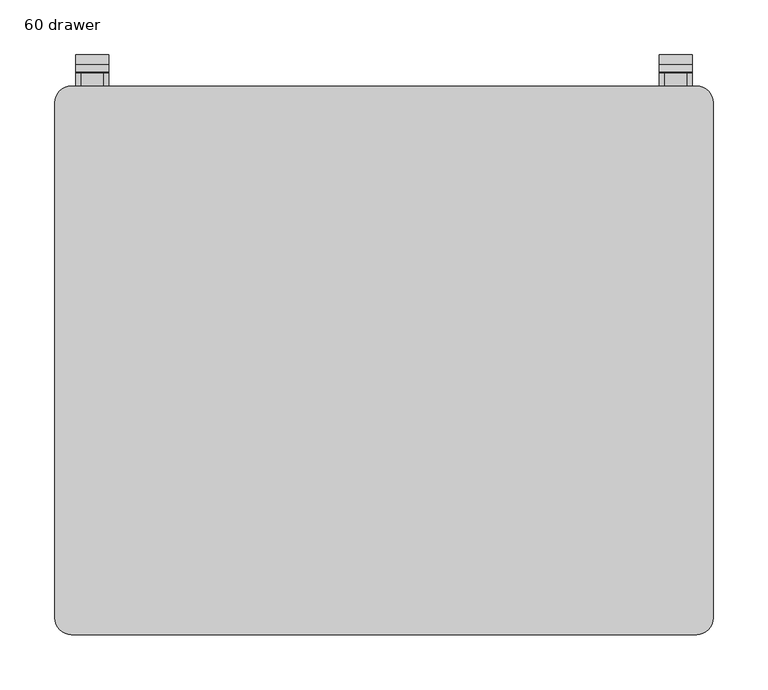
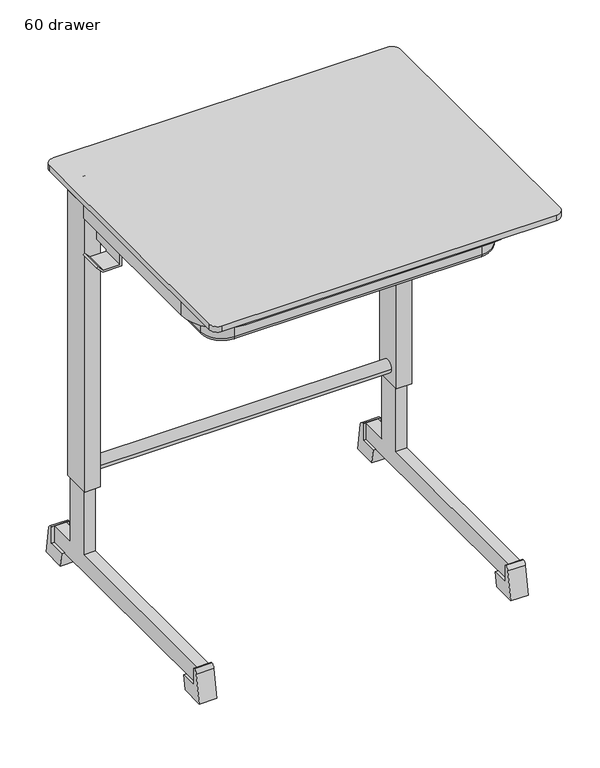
"""IFC4 building model written with IfcOpenShell, lengths in millimetres: furniture geometry, Trivia table : 60 drawer."""

from ifc_helpers import new_model, si_unit, point, frame, frame_2d, origin, place, context, project, spatial, polyline, circle_curve, ellipse_curve, trimmed, segment, composite_curve, outline, extrude, faceted_brep, source, transform, mapped, element, save
from ifc_brep_helpers import plane_surface, cylinder_surface, revolved_surface, advanced_brep


def furniture_60_drawer_d4275357(model_context):
    return source(origin(), model_context, "Body", "SolidModel", [
        advanced_brep(
        [(-242.1886902, -120.5095927, 696.521797), (-242.1886902, -120.5095927, 628.2965405), (-242.1886902, 129.6420925, 628.2965405), (-242.1886902, 144.6420925, 628.2965405), (-242.1886902, 144.6420925, 668.000493), (-242.1886902, 176.1657584, 668.000493), (-242.1886902, 176.1657584, 690.521797), (-242.1886902, 176.1657584, 696.521797), (-211.0, -151.6982829, 628.2965405), (211.0, -151.6982829, 628.2965405), (242.1886902, -120.5095927, 628.2965405), (242.1886902, 129.6420925, 628.2965405), (242.1886902, 144.6420925, 628.2965405), (242.1886902, -120.5095927, 622.2965405), (211.0, -151.6982829, 622.2965405), (-211.0, -151.6982829, 622.2965405), (-242.1886902, -120.5095927, 622.2965405), (-242.1886902, 129.6420925, 622.2965405), (-242.1886902, 144.6420925, 622.2965405), (242.1886902, 144.6420925, 622.2965405), (242.1886902, 129.6420925, 622.2965405), (-248.1886902, -120.5095927, 628.2965405), (-248.1886902, 150.6420925, 628.2965405), (-248.1886902, -120.5095927, 690.521797), (-248.1886902, 182.1657584, 690.521797), (-248.1886902, 182.1657584, 668.000493), (-248.1886902, 176.1657584, 662.000493), (-248.1886902, 150.6420925, 662.000493), (275.0, -120.5095927, 690.521797), (211.0, -184.5095927, 690.521797), (-211.0, -184.5095927, 690.521797), (-275.0, -120.5095927, 690.521797), (-275.0, 167.0000173, 690.521797), (-253.0, 167.0000173, 690.521797), (-253.0, 211.0000176, 690.521797), (253.0, 211.0000176, 690.521797), (253.0, 167.0000173, 690.521797), (275.0, 167.0000173, 690.521797), (-211.0, -157.6982829, 690.521797), (211.0, -157.6982829, 690.521797), (248.1886902, -120.5095927, 690.521797), (248.1886902, 182.1657584, 690.521797), (-281.0, -120.5095927, 670.0758066), (-281.0, -120.5095927, 696.521797), (-281.0, 167.0000173, 696.521797), (-281.0, 167.0000173, 670.0758066), (-211.0, -190.5095927, 696.521797), (211.0, -190.5095927, 696.521797), (281.0, -120.5095927, 696.521797), (281.0, 167.0000173, 696.521797), (253.0, 167.0000173, 696.521797), (253.0, 211.0000176, 696.521797), (-253.0, 211.0000176, 696.521797), (-253.0, 167.0000173, 696.521797), (242.1886902, -120.5095927, 696.521797), (211.0, -151.6982829, 696.521797), (-211.0, -151.6982829, 696.521797), (242.1886902, 176.1657584, 696.521797), (-211.0, -157.6982829, 628.2965405), (-211.0, -190.5095927, 670.0758066), (211.0, -157.6982829, 628.2965405), (211.0, -190.5095927, 670.0758066), (248.1886902, -120.5095927, 628.2965405), (281.0, -120.5095927, 670.0758066), (242.1886902, 176.1657584, 690.521797), (242.1886902, 176.1657584, 668.000493), (242.1886902, 144.6420925, 668.000493), (248.1886902, 150.6420925, 628.2965405), (248.1886902, 150.6420925, 662.000493), (248.1886902, 176.1657584, 662.000493), (248.1886902, 182.1657584, 668.000493), (281.0, 167.0000173, 670.0758066), (-242.1886902, 182.1657584, 668.000493), (242.1886902, 182.1657584, 668.000493), (-242.1886902, 176.1657584, 662.000493), (242.1886902, 176.1657584, 662.000493), (-253.0, 217.0000176, 662.000493), (-253.0, 211.0000176, 662.000493), (-253.0, 217.0000176, 690.521797), (253.0, 217.0000176, 690.521797), (253.0, 217.0000176, 662.000493), (253.0, 211.0000176, 662.000493), (-275.0, -120.5095927, 670.0758066), (-275.0, 167.0000173, 670.0758066), (-211.0, -184.5095927, 670.0758066), (211.0, -184.5095927, 670.0758066), (275.0, -120.5095927, 670.0758066), (275.0, 167.0000173, 670.0758066)],
        [
            (0, 1),
            (1, 2),
            (2, 3),
            (3, 4),
            (4, 5),
            (5, 6),
            (6, 7),
            (7, 0),
            (1, 8, circle_curve(frame((-211.0, -120.5095927, 628.2965405), z_axis=(0.0, 0.0, 1.0), x_axis=(-1.0, 0.0, 0.0)), 31.1886902)),
            (8, 9),
            (9, 10, circle_curve(frame((211.0, -120.5095927, 628.2965405), z_axis=(0.0, 0.0, 1.0), x_axis=(0.0, -1.0, 0.0)), 31.1886902)),
            (10, 11),
            (11, 12),
            (12, 3),
            (13, 14, circle_curve(frame((211.0, -120.5095927, 622.2965405), z_axis=(0.0, 0.0, -1.0), x_axis=(0.0, -1.0, 0.0)), 31.1886902)),
            (14, 15),
            (15, 16, circle_curve(frame((-211.0, -120.5095927, 622.2965405), z_axis=(0.0, 0.0, -1.0), x_axis=(-1.0, 0.0, 0.0)), 31.1886902)),
            (16, 17),
            (17, 18),
            (18, 19),
            (19, 20),
            (20, 13),
            (16, 21, circle_curve(frame((-242.1886902, -120.5095927, 628.2965405), z_axis=(0.0, 1.0, 0.0), x_axis=(1.0, 0.0, 0.0)), 6.0)),
            (21, 22),
            (22, 18, ellipse_curve(frame((-242.1886902, 144.6420925, 628.2965405), z_axis=(-0.707106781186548, -0.7071067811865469, 0.0), x_axis=(-0.7071067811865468, 0.7071067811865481, 0.0)), 8.4852814, 6.0)),
            (21, 23),
            (23, 24),
            (24, 25),
            (25, 26, circle_curve(frame((-248.1886902, 176.1657584, 668.000493), z_axis=(-1.0, 0.0, 0.0), x_axis=(0.0, 1.0, 0.0)), 6.0)),
            (26, 27),
            (27, 22),
            (28, 29, circle_curve(frame((211.0, -120.5095927, 690.521797), z_axis=(0.0, 0.0, -1.0), x_axis=(0.0, -1.0, 0.0)), 64.0)),
            (29, 30),
            (30, 31, circle_curve(frame((-211.0, -120.5095927, 690.521797), z_axis=(0.0, 0.0, -1.0), x_axis=(-1.0, 0.0, 0.0)), 64.0)),
            (31, 32),
            (32, 33),
            (33, 34),
            (34, 35),
            (35, 36),
            (36, 37),
            (37, 28),
            (23, 38, circle_curve(frame((-211.0, -120.5095927, 690.521797), z_axis=(0.0, 0.0, 1.0), x_axis=(-1.0, 0.0, 0.0)), 37.1886902)),
            (38, 39),
            (39, 40, circle_curve(frame((211.0, -120.5095927, 690.521797), z_axis=(0.0, 0.0, 1.0), x_axis=(0.0, -1.0, 0.0)), 37.1886902)),
            (40, 41),
            (41, 24),
            (42, 43),
            (43, 44),
            (44, 45),
            (45, 42),
            (43, 46, circle_curve(frame((-211.0, -120.5095927, 696.521797), z_axis=(0.0, 0.0, 1.0), x_axis=(-1.0, 0.0, 0.0)), 70.0)),
            (46, 47),
            (47, 48, circle_curve(frame((211.0, -120.5095927, 696.521797), z_axis=(0.0, 0.0, 1.0), x_axis=(0.0, -1.0, 0.0)), 70.0)),
            (48, 49),
            (49, 50),
            (50, 51),
            (51, 52),
            (52, 53),
            (53, 44),
            (54, 55, circle_curve(frame((211.0, -120.5095927, 696.521797), z_axis=(0.0, 0.0, -1.0), x_axis=(0.0, -1.0, 0.0)), 31.1886902)),
            (55, 56),
            (56, 0, circle_curve(frame((-211.0, -120.5095927, 696.521797), z_axis=(0.0, 0.0, -1.0), x_axis=(-1.0, 0.0, 0.0)), 31.1886902)),
            (7, 57),
            (57, 54),
            (56, 8),
            (15, 58, circle_curve(frame((-211.0, -151.6982829, 628.2965405), z_axis=(-1.0, 0.0, 0.0), x_axis=(0.0, 1.0, 0.0)), 6.0)),
            (58, 21, circle_curve(frame((-211.0, -120.5095927, 628.2965405), z_axis=(0.0, 0.0, -1.0), x_axis=(-1.0, 0.0, 0.0)), 37.1886902)),
            (58, 38),
            (42, 59, circle_curve(frame((-211.0, -120.5095927, 670.0758066), z_axis=(0.0, 0.0, 1.0), x_axis=(-1.0, 0.0, 0.0)), 70.0)),
            (59, 46),
            (55, 9),
            (14, 60, circle_curve(frame((211.0, -151.6982829, 628.2965405), z_axis=(-1.0, 0.0, 0.0), x_axis=(0.0, 1.0, 0.0)), 6.0)),
            (60, 58),
            (60, 39),
            (59, 61),
            (61, 47),
            (54, 10),
            (13, 62, circle_curve(frame((242.1886902, -120.5095927, 628.2965405), z_axis=(0.0, -1.0, 0.0), x_axis=(-1.0, 0.0, 0.0)), 6.0)),
            (62, 60, circle_curve(frame((211.0, -120.5095927, 628.2965405), z_axis=(0.0, 0.0, -1.0), x_axis=(0.0, -1.0, 0.0)), 37.1886902)),
            (62, 40),
            (61, 63, circle_curve(frame((211.0, -120.5095927, 670.0758066), z_axis=(0.0, 0.0, 1.0), x_axis=(0.0, -1.0, 0.0)), 70.0)),
            (63, 48),
            (57, 64),
            (64, 65),
            (65, 66),
            (66, 12),
            (19, 67, ellipse_curve(frame((242.1886902, 144.6420925, 628.2965405), z_axis=(0.7071067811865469, -0.707106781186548, 0.0), x_axis=(-0.7071067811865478, -0.707106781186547, 0.0)), 8.4852814, 6.0)),
            (67, 62),
            (67, 68),
            (68, 69),
            (69, 70, circle_curve(frame((248.1886902, 176.1657584, 668.000493), z_axis=(1.0, 0.0, 0.0), x_axis=(0.0, 1.0, 0.0)), 6.0)),
            (70, 41),
            (63, 71),
            (71, 49),
            (72, 25),
            (70, 73),
            (73, 72),
            (26, 74),
            (74, 75),
            (75, 69),
            (68, 27),
            (67, 22),
            (72, 74, circle_curve(frame((-242.1886902, 176.1657584, 668.000493), z_axis=(-1.0, 0.0, 0.0), x_axis=(0.0, 1.0, 0.0)), 6.0)),
            (75, 73, circle_curve(frame((242.1886902, 176.1657584, 668.000493), z_axis=(1.0, 0.0, 0.0), x_axis=(0.0, 1.0, 0.0)), 6.0)),
            (76, 77),
            (77, 34),
            (33, 53),
            (52, 78, circle_curve(frame((-253.0, 211.0000176, 690.521797), z_axis=(-1.0, 0.0, 0.0), x_axis=(0.0, 1.0, 0.0)), 6.0)),
            (78, 76),
            (79, 80),
            (80, 76),
            (78, 79),
            (5, 65),
            (4, 66),
            (51, 79, circle_curve(frame((253.0, 211.0000176, 690.521797), z_axis=(-1.0, 0.0, 0.0), x_axis=(0.0, 1.0, 0.0)), 6.0)),
            (81, 35),
            (77, 81),
            (80, 81),
            (31, 82),
            (82, 83),
            (83, 32),
            (45, 83),
            (82, 84, circle_curve(frame((-211.0, -120.5095927, 670.0758066), z_axis=(0.0, 0.0, 1.0), x_axis=(-1.0, 0.0, 0.0)), 64.0)),
            (84, 85),
            (85, 86, circle_curve(frame((211.0, -120.5095927, 670.0758066), z_axis=(0.0, 0.0, 1.0), x_axis=(0.0, -1.0, 0.0)), 64.0)),
            (86, 87),
            (87, 71),
            (30, 84),
            (29, 85),
            (28, 86),
            (37, 87),
            (50, 36),
        ],
        [
            plane_surface(frame((-242.1886902, 249.4904073, 696.521797), z_axis=(1.0, 0.0, 0.0), x_axis=(0.0, -1.0, 0.0))),
            plane_surface(frame((-242.1886902, 249.4904073, 628.2965405), z_axis=(0.0, 0.0, 1.0), x_axis=(0.0, -1.0, 0.0))),
            plane_surface(frame((-233.3465399, 249.4904073, 622.2965405), z_axis=(0.0, 0.0, -1.0), x_axis=(0.0, -1.0, 0.0))),
            cylinder_surface(frame((-242.1886902, 249.4904073, 628.2965405), z_axis=(0.0, 1.0, 0.0), x_axis=(1.0, 0.0, 0.0)), 6.0),
            plane_surface(frame((-248.1886902, 249.4904073, 628.2965405), z_axis=(-1.0, 0.0, 0.0), x_axis=(0.0, -1.0, 0.0))),
            plane_surface(frame((-248.1886902, 249.4904073, 690.521797), z_axis=(0.0, 0.0, -1.0), x_axis=(0.0, -1.0, 0.0))),
            plane_surface(frame((-281.0, 249.4904073, 670.0758066), z_axis=(-1.0, 0.0, 0.0), x_axis=(0.0, -1.0, 0.0))),
            plane_surface(frame((-281.0, 249.4904073, 696.521797), z_axis=(0.0, 0.0, 1.0), x_axis=(0.0, -1.0, 0.0))),
            revolved_surface(polyline([(-242.1886902, -120.5095927, 696.521797), (-242.1886902, -120.5095927, 628.2965405)]), (-211.0, -120.5095927, 729.9880943), (0.0, 0.0, 1.0)),
            revolved_surface(trimmed(ellipse_curve(frame((-242.1886902, -120.5095927, 628.2965405), z_axis=(0.0, 1.0, 0.0), x_axis=(1.0, 0.0, 0.0)), 6.0, 6.0), [point((-242.1886902, -120.5095927, 622.2965405))], [point((-248.1886902, -120.5095927, 628.2965405))], True, "CARTESIAN"), (-211.0, -120.5095927, 729.9880943), (0.0, 0.0, 1.0)),
            cylinder_surface(frame((-211.0, -120.5095927, 729.9880943), z_axis=(0.0, 0.0, 1.0), x_axis=(-1.0, 0.0, 0.0)), 37.1886902),
            cylinder_surface(frame((-211.0, -120.5095927, 729.9880943), z_axis=(0.0, 0.0, 1.0), x_axis=(-1.0, 0.0, 0.0)), 70.0),
            plane_surface(frame((-211.0, -151.6982829, 696.521797), z_axis=(0.0, 1.0, 0.0), x_axis=(1.0, 0.0, 0.0))),
            cylinder_surface(frame((-211.0, -151.6982829, 628.2965405), z_axis=(-1.0, 0.0, 0.0), x_axis=(0.0, 1.0, 0.0)), 6.0),
            plane_surface(frame((-211.0, -157.6982829, 628.2965405), z_axis=(0.0, -1.0, 0.0), x_axis=(1.0, 0.0, 0.0))),
            plane_surface(frame((-211.0, -190.5095927, 670.0758066), z_axis=(0.0, -1.0, 0.0), x_axis=(1.0, 0.0, 0.0))),
            revolved_surface(polyline([(211.0, -151.6982829, 696.521797), (211.0, -151.6982829, 628.2965405)]), (211.0, -120.5095927, 729.9880943), (0.0, 0.0, 1.0)),
            revolved_surface(trimmed(ellipse_curve(frame((211.0, -151.6982829, 628.2965405), z_axis=(-1.0, 0.0, 0.0), x_axis=(0.0, 1.0, 0.0)), 6.0, 6.0), [point((211.0, -151.6982829, 622.2965405))], [point((211.0, -157.6982829, 628.2965405))], True, "CARTESIAN"), (211.0, -120.5095927, 729.9880943), (0.0, 0.0, 1.0)),
            cylinder_surface(frame((211.0, -120.5095927, 729.9880943), z_axis=(0.0, 0.0, 1.0), x_axis=(0.0, -1.0, 0.0)), 37.1886902),
            cylinder_surface(frame((211.0, -120.5095927, 729.9880943), z_axis=(0.0, 0.0, 1.0), x_axis=(0.0, -1.0, 0.0)), 70.0),
            plane_surface(frame((242.1886902, -120.5095927, 696.521797), z_axis=(-1.0, 0.0, 0.0), x_axis=(0.0, 1.0, 0.0))),
            cylinder_surface(frame((242.1886902, -120.5095927, 628.2965405), z_axis=(0.0, -1.0, 0.0), x_axis=(-1.0, 0.0, 0.0)), 6.0),
            plane_surface(frame((248.1886902, -120.5095927, 628.2965405), z_axis=(1.0, 0.0, 0.0), x_axis=(0.0, 1.0, 0.0))),
            plane_surface(frame((281.0, -120.5095927, 670.0758066), z_axis=(1.0, 0.0, 0.0), x_axis=(0.0, 1.0, 0.0))),
            plane_surface(frame((300.0, 182.1657584, 696.521797), z_axis=(0.0, 1.0, 0.0), x_axis=(-1.0, 0.0, 0.0))),
            plane_surface(frame((300.0, 176.1657584, 662.000493), z_axis=(0.0, 0.0, -1.0), x_axis=(-1.0, 0.0, 0.0))),
            plane_surface(frame((300.0, 150.6420925, 662.000493), z_axis=(0.0, 1.0, 0.0), x_axis=(-1.0, 0.0, 0.0))),
            cylinder_surface(frame((-300.0, 176.1657584, 668.000493), z_axis=(-1.0, 0.0, 0.0), x_axis=(0.0, 1.0, 0.0)), 6.0),
            cylinder_surface(frame((-300.0, 144.6420925, 628.2965405), z_axis=(-1.0, 0.0, 0.0), x_axis=(0.0, 1.0, 0.0)), 6.0),
            plane_surface(frame((-253.0, 217.0000176, 696.521797), z_axis=(-1.0, 0.0, 0.0), x_axis=(0.0, 0.0, -1.0))),
            plane_surface(frame((253.0, 217.0000176, 662.000493), z_axis=(0.0, 1.0, 0.0), x_axis=(-1.0, 0.0, 0.0))),
            plane_surface(frame((253.0, 176.1657584, 696.521797), z_axis=(0.0, -1.0, 0.0), x_axis=(-1.0, 0.0, 0.0))),
            plane_surface(frame((253.0, 176.1657584, 668.000493), z_axis=(0.0, 0.0, 1.0), x_axis=(-1.0, 0.0, 0.0))),
            plane_surface(frame((253.0, 144.6420925, 668.000493), z_axis=(0.0, -1.0, 0.0), x_axis=(-1.0, 0.0, 0.0))),
            cylinder_surface(frame((-253.0, 176.1657584, 668.000493), z_axis=(1.0, 0.0, 0.0), x_axis=(0.0, 1.0, 0.0)), 6.0),
            cylinder_surface(frame((-253.0, 211.0000176, 690.521797), z_axis=(1.0, 0.0, 0.0), x_axis=(0.0, 1.0, 0.0)), 6.0),
            plane_surface(frame((253.0, 211.0000176, 690.521797), z_axis=(0.0, -1.0, 0.0), x_axis=(-1.0, 0.0, 0.0))),
            plane_surface(frame((253.0, 211.0000176, 662.000493), z_axis=(0.0, 0.0, -1.0), x_axis=(-1.0, 0.0, 0.0))),
            plane_surface(frame((-275.0, 249.4904073, 690.521797), z_axis=(1.0, 0.0, 0.0), x_axis=(0.0, -1.0, 0.0))),
            plane_surface(frame((-275.0, 249.4904073, 670.0758066), z_axis=(0.0, 0.0, -1.0), x_axis=(0.0, -1.0, 0.0))),
            revolved_surface(polyline([(-275.0, -120.5095927, 690.521797), (-275.0, -120.5095927, 670.0758066)]), (-211.0, -120.5095927, 729.9880943), (0.0, 0.0, 1.0)),
            plane_surface(frame((-211.0, -184.5095927, 690.521797), z_axis=(0.0, 1.0, 0.0), x_axis=(1.0, 0.0, 0.0))),
            revolved_surface(polyline([(211.0, -184.50959269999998, 690.521797), (211.0, -184.50959269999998, 670.0758066)]), (211.0, -120.5095927, 729.9880943), (0.0, 0.0, 1.0)),
            plane_surface(frame((275.0, -120.5095927, 690.521797), z_axis=(-1.0, 0.0, 0.0), x_axis=(0.0, 1.0, 0.0))),
            plane_surface(frame((253.0, 167.0000173, 696.521797), z_axis=(1.0, 0.0, 0.0), x_axis=(0.0, 0.0, 1.0))),
            plane_surface(frame((281.0, 167.0000173, 696.521797), z_axis=(0.0, 1.0, 0.0), x_axis=(-1.0, 0.0, 0.0))),
            plane_surface(frame((-281.0, 167.0000173, 622.2965405), z_axis=(0.0, 1.0, 0.0), x_axis=(1.0, 0.0, 0.0))),
        ],
        [
            (0, [[1, 2, 3, 4, 5, 6, 7, 8]]),
            (1, [[9, 10, 11, 12, 13, 14, -3, -2]]),
            (2, [[15, 16, 17, 18, 19, 20, 21, 22]]),
            (3, [[23, 24, 25, -19, -18]]),
            (4, [[26, 27, 28, 29, 30, 31, -24]]),
            (5, [[32, 33, 34, 35, 36, 37, 38, 39, 40, 41], [42, 43, 44, 45, 46, -27]]),
            (6, [[47, 48, 49, 50]]),
            (7, [[51, 52, 53, 54, 55, 56, 57, 58, 59, -48], [60, 61, 62, -8, 63, 64]]),
            (8, [[-1, -62, 65, -9]]),
            (9, [[-17, 66, 67, -23]]),
            (10, [[-26, -67, 68, -42]]),
            (11, [[-47, 69, 70, -51]]),
            (12, [[-10, -65, -61, 71]]),
            (13, [[-16, 72, 73, -66]]),
            (14, [[-43, -68, -73, 74]]),
            (15, [[-52, -70, 75, 76]]),
            (16, [[-11, -71, -60, 77]]),
            (17, [[-15, 78, 79, -72]]),
            (18, [[-44, -74, -79, 80]]),
            (19, [[-53, -76, 81, 82]]),
            (20, [[-77, -64, 83, 84, 85, 86, -13, -12]]),
            (21, [[-78, -22, -21, 87, 88]]),
            (22, [[-80, -88, 89, 90, 91, 92, -45]]),
            (23, [[-82, 93, 94, -54]]),
            (24, [[95, -28, -46, -92, 96, 97]]),
            (25, [[98, 99, 100, -90, 101, -30]]),
            (26, [[-31, -101, -89, 102]]),
            (27, [[-98, -29, -95, 103]]),
            (27, [[-100, 104, -96, -91]]),
            (28, [[-20, -25, -102, -87]]),
            (29, [[105, 106, -37, 107, -58, 108, 109]]),
            (30, [[110, 111, -109, 112]]),
            (31, [[113, -84, -83, -63, -7, -6]]),
            (32, [[-113, -5, 114, -85]]),
            (33, [[-114, -4, -14, -86]]),
            (34, [[-99, -103, -97, -104]]),
            (35, [[115, -112, -108, -57]]),
            (36, [[116, -38, -106, 117]]),
            (37, [[118, -117, -105, -111]]),
            (38, [[119, 120, 121, -35]]),
            (39, [[-69, -50, 122, -120, 123, 124, 125, 126, 127, -93, -81, -75]]),
            (40, [[-34, 128, -123, -119]]),
            (41, [[-33, 129, -124, -128]]),
            (42, [[-32, 130, -125, -129]]),
            (43, [[-130, -41, 131, -126]]),
            (44, [[132, -39, -116, -118, -110, -115, -56]]),
            (45, [[-132, -55, -94, -127, -131, -40]]),
            (46, [[-107, -36, -121, -122, -49, -59]]),
        ],
    ),
        extrude(outline(polyline([(-279.0, 167.0000173), (-279.0, 217.0000176), (-253.0, 217.0000176), (-253.0, 167.0000173), (-279.0, 167.0000173)])), frame((0.0, 0.0, 690.521797), z_axis=(0.0, 0.0, 1.0), x_axis=(1.0, 0.0, 0.0)), (0.0, 0.0, 1.0), 6.0),
        extrude(outline(polyline([(279.0, 217.0000176), (279.0, 167.0000173), (253.0, 167.0000173), (253.0, 217.0000176), (279.0, 217.0000176)])), frame((0.0, 0.0, 690.521797), z_axis=(0.0, 0.0, 1.0), x_axis=(1.0, 0.0, 0.0)), (0.0, 0.0, 1.0), 6.0),
        extrude(outline(polyline([(-280.0, 154.8817352), (-280.0, 205.0), (-252.0, 205.0), (-252.0, 154.8817352), (-280.0, 154.8817352)])), frame((0.0, 0.0, 717.4021535), z_axis=(0.0, 0.0, 1.0), x_axis=(1.0, 0.0, 0.0)), (0.0, 0.0, 1.0), 2.5978465),
        extrude(outline(composite_curve([segment(trimmed(circle_curve(frame_2d((206.4529115, 710.0282538)), 9.7445512), [point((206.4529115, 719.772805))], [point((202.571446, 701.0901051))], False, "CARTESIAN"), True, "CONTINUOUS"), segment(polyline([(202.571446, 701.0901051), (172.337409, 717.4021535), (172.337409, 719.772805), (206.4529115, 719.772805)]), True, "CONTINUOUS")], self_intersect=False)), frame((-255.0, 0.0, 0.0), z_axis=(1.0, 0.0, 0.0), x_axis=(0.0, 1.0, 0.0)), (0.0, 0.0, 1.0), 3.0),
        extrude(outline(composite_curve([segment(polyline([(209.8609292, 696.5337027), (172.337409, 696.5337027), (172.337409, 698.9043541), (202.8945629, 715.3907325)]), True, "CONTINUOUS"), segment(trimmed(circle_curve(frame_2d((206.1065452, 709.4373912)), 6.7645475), [point((202.8945629, 715.3907325))], [point((212.6701567, 707.800899))], False, "CARTESIAN"), True, "CONTINUOUS"), segment(polyline([(212.6701567, 707.800899), (209.8609292, 696.5337027)]), True, "CONTINUOUS")], self_intersect=False), holes=[composite_curve([segment(trimmed(circle_curve(frame_2d((206.4529115, 710.0282538)), 3.0), [point((203.4529115, 710.0282538))], [point((209.4529115, 710.0282538))], True, "CARTESIAN"), True, "CONTINUOUS"), segment(trimmed(circle_curve(frame_2d((206.4529115, 710.0282538)), 3.0), [point((209.4529115, 710.0282538))], [point((203.4529115, 710.0282538))], True, "CARTESIAN"), True, "CONTINUOUS")], self_intersect=False)]), frame((-258.0, 0.0, 0.0), z_axis=(1.0, 0.0, 0.0), x_axis=(0.0, 1.0, 0.0)), (0.0, 0.0, 1.0), 3.0),
        extrude(outline(polyline([(280.0, 205.0), (280.0, 154.8817352), (252.0, 154.8817352), (252.0, 205.0), (280.0, 205.0)])), frame((0.0, 0.0, 717.4021535), z_axis=(0.0, 0.0, 1.0), x_axis=(1.0, 0.0, 0.0)), (0.0, 0.0, 1.0), 2.5978465),
        extrude(outline(composite_curve([segment(trimmed(circle_curve(frame_2d((206.4529115, 710.0282538)), 9.7445512), [point((206.4529115, 719.772805))], [point((202.571446, 701.0901051))], False, "CARTESIAN"), True, "CONTINUOUS"), segment(polyline([(202.571446, 701.0901051), (172.337409, 717.4021535), (172.337409, 719.772805), (206.4529115, 719.772805)]), True, "CONTINUOUS")], self_intersect=False)), frame((252.0, 0.0, 0.0), z_axis=(1.0, 0.0, 0.0), x_axis=(0.0, 1.0, 0.0)), (0.0, 0.0, 1.0), 3.0),
        extrude(outline(composite_curve([segment(polyline([(209.8609292, 696.5337027), (172.337409, 696.5337027), (172.337409, 698.9043541), (202.8945629, 715.3907325)]), True, "CONTINUOUS"), segment(trimmed(circle_curve(frame_2d((206.1065452, 709.4373912)), 6.7645475), [point((202.8945629, 715.3907325))], [point((212.6701567, 707.800899))], False, "CARTESIAN"), True, "CONTINUOUS"), segment(polyline([(212.6701567, 707.800899), (209.8609292, 696.5337027)]), True, "CONTINUOUS")], self_intersect=False), holes=[composite_curve([segment(trimmed(circle_curve(frame_2d((206.4529115, 710.0282538)), 3.0), [point((203.4529115, 710.0282538))], [point((209.4529115, 710.0282538))], True, "CARTESIAN"), True, "CONTINUOUS"), segment(trimmed(circle_curve(frame_2d((206.4529115, 710.0282538)), 3.0), [point((209.4529115, 710.0282538))], [point((203.4529115, 710.0282538))], True, "CARTESIAN"), True, "CONTINUOUS")], self_intersect=False)]), frame((255.0, 0.0, 0.0), z_axis=(1.0, 0.0, 0.0), x_axis=(0.0, 1.0, 0.0)), (0.0, 0.0, 1.0), 3.0),
        extrude(outline(composite_curve([segment(trimmed(circle_curve(frame_2d((-123.5, -170.1982829)), 8.0), [point((-131.5, -170.1982829))], [point((-115.5, -170.1982829))], False, "CARTESIAN"), True, "CONTINUOUS"), segment(trimmed(circle_curve(frame_2d((-123.5, -170.1982829)), 8.0), [point((-115.5, -170.1982829))], [point((-131.5, -170.1982829))], False, "CARTESIAN"), True, "CONTINUOUS")], self_intersect=False)), frame((0.0, 0.0, 696.5337027), z_axis=(0.0, 0.0, 1.0), x_axis=(1.0, 0.0, 0.0)), (0.0, 0.0, 1.0), 23.4662973),
        extrude(outline(composite_curve([segment(trimmed(circle_curve(frame_2d((123.5, -170.1982829)), 8.0), [point((115.5, -170.1982829))], [point((131.5, -170.1982829))], False, "CARTESIAN"), True, "CONTINUOUS"), segment(trimmed(circle_curve(frame_2d((123.5, -170.1982829)), 8.0), [point((131.5, -170.1982829))], [point((115.5, -170.1982829))], False, "CARTESIAN"), True, "CONTINUOUS")], self_intersect=False)), frame((0.0, 0.0, 696.5337027), z_axis=(0.0, 0.0, 1.0), x_axis=(1.0, 0.0, 0.0)), (0.0, 0.0, 1.0), 23.4662973),
        extrude(outline(composite_curve([segment(polyline([(285.0, -250.0), (-285.0, -250.0)]), True, "CONTINUOUS"), segment(trimmed(circle_curve(frame_2d((-285.0, -235.0)), 15.0), [point((-285.0, -250.0))], [point((-300.0, -235.0))], False, "CARTESIAN"), True, "CONTINUOUS"), segment(polyline([(-300.0, -235.0), (-300.0, 235.0)]), True, "CONTINUOUS"), segment(trimmed(circle_curve(frame_2d((-285.0, 235.0)), 15.0), [point((-300.0, 235.0))], [point((-285.0, 250.0))], False, "CARTESIAN"), True, "CONTINUOUS"), segment(polyline([(-285.0, 250.0), (285.0, 250.0)]), True, "CONTINUOUS"), segment(trimmed(circle_curve(frame_2d((285.0, 235.0)), 15.0), [point((285.0, 250.0))], [point((300.0, 235.0))], False, "CARTESIAN"), True, "CONTINUOUS"), segment(polyline([(300.0, 235.0), (300.0, -235.0)]), True, "CONTINUOUS"), segment(trimmed(circle_curve(frame_2d((285.0, -235.0)), 15.0), [point((300.0, -235.0))], [point((285.0, -250.0))], False, "CARTESIAN"), True, "CONTINUOUS")], self_intersect=False)), frame((0.0, 0.0, 720.0), z_axis=(0.0, 0.0, 1.0), x_axis=(1.0, 0.0, 0.0)), (0.0, 0.0, 1.0), 10.0),
        faceted_brep([(-256.0, 167.0000173, 669.978232), (-256.0, 167.0000173, 624.071059), (-259.0, 167.0000173, 624.071059), (-259.0, 167.0000173, 669.978232), (-256.0, 138.1962488, 624.071059), (-259.0, 138.1962488, 624.071059), (-256.0, 97.8407812, 617.478232), (-256.0, 97.8407812, 669.978232), (-259.0, 97.8407812, 669.978232), (-259.0, 97.8407812, 620.478232), (-287.2573593, 97.8407812, 620.478232), (-296.274477, 97.8407812, 629.4953497), (-298.3957973, 97.8407812, 627.3740293), (-288.5, 97.8407812, 617.478232), (-256.0, 138.1962488, 617.478232), (-288.5, 138.1962488, 617.478232), (-298.3957973, 138.1962488, 627.3740293), (-296.274477, 138.1962488, 629.4953497), (-287.2573593, 138.1962488, 620.478232), (-259.0, 138.1962488, 620.478232)], [[[0, 1, 2, 3]], [[2, 1, 4, 5]], [[6, 7, 8, 9, 10, 11, 12, 13]], [[14, 15, 16, 17, 18, 19, 5, 4]], [[10, 9, 19, 18]], [[11, 10, 18, 17]], [[12, 11, 17, 16]], [[13, 12, 16, 15]], [[6, 13, 15, 14]], [[9, 8, 3, 2, 5, 19]], [[7, 6, 14, 4, 1, 0]], [[8, 7, 0, 3]]]),
        faceted_brep([(256.0, 167.0000173, 669.978232), (259.0, 167.0000173, 669.978232), (259.0, 167.0000173, 624.071059), (256.0, 167.0000173, 624.071059), (259.0, 97.8407812, 669.978232), (259.0, 97.8407812, 620.478232), (259.0, 138.1962488, 620.478232), (259.0, 138.1962488, 624.071059), (256.0, 138.1962488, 624.071059), (256.0, 138.1962488, 617.478232), (256.0, 97.8407812, 617.478232), (256.0, 97.8407812, 669.978232), (288.5, 97.8407812, 617.478232), (298.3957973, 97.8407812, 627.3740293), (296.274477, 97.8407812, 629.4953497), (287.2573593, 97.8407812, 620.478232), (287.2573593, 138.1962488, 620.478232), (296.274477, 138.1962488, 629.4953497), (298.3957973, 138.1962488, 627.3740293), (288.5, 138.1962488, 617.478232)], [[[0, 1, 2, 3]], [[2, 1, 4, 5, 6, 7]], [[3, 2, 7, 8]], [[0, 3, 8, 9, 10, 11]], [[10, 12, 13, 14, 15, 5, 4, 11]], [[6, 16, 17, 18, 19, 9, 8, 7]], [[5, 15, 16, 6]], [[15, 14, 17, 16]], [[14, 13, 18, 17]], [[13, 12, 19, 18]], [[12, 10, 9, 19]], [[1, 0, 11, 4]]]),
        extrude(outline(polyline([(-279.0, 167.0000173), (-279.0, 217.0000176), (-253.0, 217.0000176), (-253.0, 167.0000173), (-279.0, 167.0000173)])), frame((0.0, 0.0, 175.0), z_axis=(0.0, 0.0, 1.0), x_axis=(1.0, 0.0, 0.0)), (0.0, 0.0, 1.0), 515.000029),
        extrude(outline(polyline([(279.0, 217.0000176), (279.0, 167.0000173), (253.0, 167.0000173), (253.0, 217.0000176), (279.0, 217.0000176)])), frame((0.0, 0.0, 175.0), z_axis=(0.0, 0.0, 1.0), x_axis=(1.0, 0.0, 0.0)), (0.0, 0.0, 1.0), 515.000029),
        extrude(outline(composite_curve([segment(polyline([(236.4808233, 0.0), (232.2713678, 25.0000002), (262.3523545, 25.0000002), (262.3523545, 54.9999995), (263.3217876, 54.9999995)]), True, "CONTINUOUS"), segment(trimmed(circle_curve(frame_2d((263.3217876, 48.0256071)), 6.9743924), [point((263.3217876, 54.9999995))], [point((270.1993675, 49.1836417))], False, "CARTESIAN"), True, "CONTINUOUS"), segment(polyline([(270.1993675, 49.1836417), (278.4808214, 0.0), (236.4808233, 0.0)]), True, "CONTINUOUS")], self_intersect=False)), frame((-281.0, 0.0, 0.0), z_axis=(1.0, 0.0, 0.0), x_axis=(0.0, 1.0, 0.0)), (0.0, 0.0, 1.0), 30.0),
        extrude(outline(composite_curve([segment(polyline([(-132.5791756, 0.0), (-174.5791737, 0.0), (-166.2977198, 49.1836417)]), True, "CONTINUOUS"), segment(trimmed(circle_curve(frame_2d((-159.4201399, 48.0256071)), 6.9743924), [point((-166.2977198, 49.1836417))], [point((-159.4201399, 54.9999995))], False, "CARTESIAN"), True, "CONTINUOUS"), segment(polyline([(-159.4201399, 54.9999995), (-158.4507069, 54.9999995), (-158.4507069, 25.0000002), (-128.3697201, 25.0000002), (-132.5791756, 0.0)]), True, "CONTINUOUS")], self_intersect=False)), frame((-281.0, 0.0, 0.0), z_axis=(1.0, 0.0, 0.0), x_axis=(0.0, 1.0, 0.0)), (0.0, 0.0, 1.0), 30.0),
        extrude(outline(polyline([(215.2376978, 54.9999995), (262.3523545, 54.9999995), (262.3523545, 25.0000002), (-158.4507069, 25.0000002), (-158.4507069, 54.9999995), (176.2500158, 54.9999995), (176.2500158, 175.0), (215.2376978, 175.0), (215.2376978, 54.9999995)])), frame((-276.0, 0.0, 0.0), z_axis=(1.0, 0.0, 0.0), x_axis=(0.0, 1.0, 0.0)), (0.0, 0.0, 1.0), 20.0),
        extrude(outline(composite_curve([segment(polyline([(236.4808233, 0.0), (232.2713678, 25.0000002), (262.3523545, 25.0000002), (262.3523545, 54.9999995), (263.3217876, 54.9999995)]), True, "CONTINUOUS"), segment(trimmed(circle_curve(frame_2d((263.3217876, 48.0256071)), 6.9743924), [point((263.3217876, 54.9999995))], [point((270.1993675, 49.1836417))], False, "CARTESIAN"), True, "CONTINUOUS"), segment(polyline([(270.1993675, 49.1836417), (278.4808214, 0.0), (236.4808233, 0.0)]), True, "CONTINUOUS")], self_intersect=False)), frame((251.0, 0.0, 0.0), z_axis=(1.0, 0.0, 0.0), x_axis=(0.0, 1.0, 0.0)), (0.0, 0.0, 1.0), 30.0),
        extrude(outline(composite_curve([segment(polyline([(-132.5791756, 0.0), (-174.5791737, 0.0), (-166.2977198, 49.1836417)]), True, "CONTINUOUS"), segment(trimmed(circle_curve(frame_2d((-159.4201399, 48.0256071)), 6.9743924), [point((-166.2977198, 49.1836417))], [point((-159.4201399, 54.9999995))], False, "CARTESIAN"), True, "CONTINUOUS"), segment(polyline([(-159.4201399, 54.9999995), (-158.4507069, 54.9999995), (-158.4507069, 25.0000002), (-128.3697201, 25.0000002), (-132.5791756, 0.0)]), True, "CONTINUOUS")], self_intersect=False)), frame((251.0, 0.0, 0.0), z_axis=(1.0, 0.0, 0.0), x_axis=(0.0, 1.0, 0.0)), (0.0, 0.0, 1.0), 30.0),
        extrude(outline(polyline([(215.2376978, 54.9999995), (262.3523545, 54.9999995), (262.3523545, 25.0000002), (-158.4507069, 25.0000002), (-158.4507069, 54.9999995), (176.2500158, 54.9999995), (176.2500158, 175.0), (215.2376978, 175.0), (215.2376978, 54.9999995)])), frame((256.0, 0.0, 0.0), z_axis=(1.0, 0.0, 0.0), x_axis=(0.0, 1.0, 0.0)), (0.0, 0.0, 1.0), 20.0),
        extrude(outline(composite_curve([segment(trimmed(circle_curve(frame_2d((211.0, -117.0000068)), 45.0), [point((211.0, -162.0000068))], [point((256.0, -117.0000068))], True, "CARTESIAN"), True, "CONTINUOUS"), segment(polyline([(256.0, -117.0000068), (256.0, 167.0000173), (276.0, 167.0000173), (276.0, -117.0000067)]), True, "CONTINUOUS"), segment(trimmed(circle_curve(frame_2d((211.0, -117.0000068)), 65.0), [point((276.0, -117.0000067))], [point((211.0, -182.0000068))], False, "CARTESIAN"), True, "CONTINUOUS"), segment(polyline([(211.0, -182.0000068), (-211.0, -182.0000067)]), True, "CONTINUOUS"), segment(trimmed(circle_curve(frame_2d((-211.0, -117.0000068)), 65.0), [point((-211.0, -182.0000067))], [point((-276.0, -117.0000068))], False, "CARTESIAN"), True, "CONTINUOUS"), segment(polyline([(-276.0, -117.0000068), (-276.0, 167.0000173), (-256.0, 167.0000173), (-256.0, -117.0000068)]), True, "CONTINUOUS"), segment(trimmed(circle_curve(frame_2d((-211.0, -117.0000068)), 45.0), [point((-256.0, -117.0000068))], [point((-211.0, -162.0000068))], True, "CARTESIAN"), True, "CONTINUOUS"), segment(polyline([(-211.0, -162.0000068), (211.0, -162.0000068)]), True, "CONTINUOUS")], self_intersect=False)), frame((0.0, 0.0, 669.978232), z_axis=(0.0, 0.0, 1.0), x_axis=(1.0, 0.0, 0.0)), (0.0, 0.0, 1.0), 20.0094431),
        extrude(outline(composite_curve([segment(trimmed(circle_curve(frame_2d((192.0000175, 202.0000098)), 11.0), [point((181.0000175, 202.0000098))], [point((203.0000175, 202.0000098))], False, "CARTESIAN"), True, "CONTINUOUS"), segment(trimmed(circle_curve(frame_2d((192.0000175, 202.0000098)), 11.0), [point((203.0000175, 202.0000098))], [point((181.0000175, 202.0000098))], False, "CARTESIAN"), True, "CONTINUOUS")], self_intersect=False)), frame((-253.0, 0.0, 0.0), z_axis=(1.0, 0.0, 0.0), x_axis=(0.0, 1.0, 0.0)), (0.0, 0.0, 1.0), 506.0),
        extrude(outline(polyline([(253.0, 209.9876913), (253.0, 190.0123117), (-253.0, 190.0123117), (-253.0, 209.9876913), (253.0, 209.9876913)])), frame((0.0, 0.0, 660.0123245), z_axis=(0.0, 0.0, 1.0), x_axis=(1.0, 0.0, 0.0)), (0.0, 0.0, 1.0), 29.9753506),
    ])


if __name__ == "__main__":
    model = new_model("IFC4")
    model_context = context("Model", 3, world=origin())
    ifc_project = project(units=[si_unit("LENGTHUNIT", "METRE", prefix="MILLI")], contexts=[model_context])
    site = spatial("IfcSite", under=ifc_project)
    building = spatial("IfcBuilding", under=site)
    placement = place(None, origin())
    furniture_60_drawer_shape = furniture_60_drawer_d4275357(model_context)
    element("IfcFurniture", 1, ObjectType="Trivia table : 60 drawer", at=placement, inside=building, context=model_context, shape_type="MappedRepresentation", body=[
        mapped(furniture_60_drawer_shape, transform((0.0, 0.0, 0.0), x_axis=(1.0, 0.0, 0.0), y_axis=(0.0, 1.0, 0.0), z_axis=(0.0, 0.0, 1.0))),
    ])
    save(model, "model.ifc")
